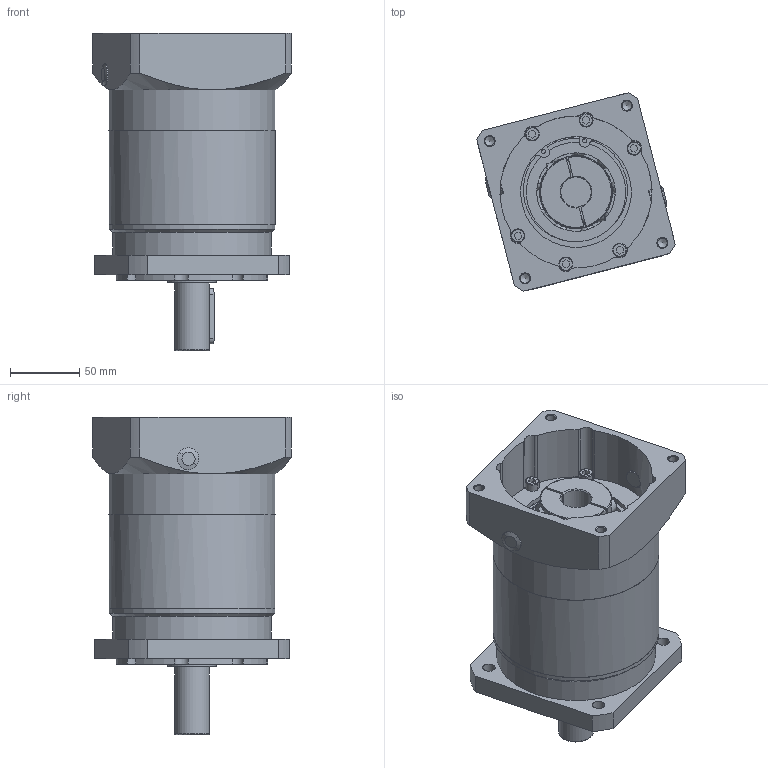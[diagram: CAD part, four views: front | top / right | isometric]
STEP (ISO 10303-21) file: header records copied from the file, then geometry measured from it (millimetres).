
FILE_DESCRIPTION(/* description */ (''),/* implementation_level */ '2;1');
FILE_NAME(/* name */ 'PF-120-L2-(22-110-145-M8)(输出轴径25）.stp',/* time_stamp */ '2022-03-01T16:21:29+08:00',/* author */ (''),/* organization */ (''),/* preprocessor_version */ 'ST-DEVELOPER v16',/* originating_system */ 'SIEMENS PLM Software NX 10.0',/* authorisation */ '');
FILE_SCHEMA (('AP203_CONFIGURATION_CONTROLLED_3D_DESIGN_OF_MECHANICAL_PARTS_AND_ASSEMBLIES_MIM_LF { 1 0 10303 403 2 1 2}'));
Length unit declared in the file: millimetre
Products named in the file (1): 4C80C2812283
Bounding box: 143.43 x 143.43 x 229.5 mm (x, y, z)
Volume: 1191029.7 mm3; surface area: 337148.4 mm2
Topology: 28 solids, 28 shells, 1065 faces, 2894 edges, 1921 vertices
Faces by surface type: plane 348, cylinder 344, sphere 148, torus 114, cone 85, bspline 26
Full cylindrical faces by diameter (mm): 5 x16, 6.5 x14, 6.8 x8, 8.5 x1, 9 x4, 11 x8, 13 x2, 20 x1, 22 x1, 25 x2, 30 x1, 33 x1, 35 x2, 40 x1, 44 x1, 48.5 x1, 60 x1, 70 x1, 72 x2, 75 x1, 80 x3, 84 x1, 85 x1, 89 x1, 95 x4, 115 x1, 120 x3
Entity records: 35847 total; most frequent: CARTESIAN_POINT 9540, DIRECTION 5528, ORIENTED_EDGE 5360, EDGE_CURVE 2680, AXIS2_PLACEMENT_3D 2386, VERTEX_POINT 1858, EDGE_LOOP 1374, CIRCLE 1346
